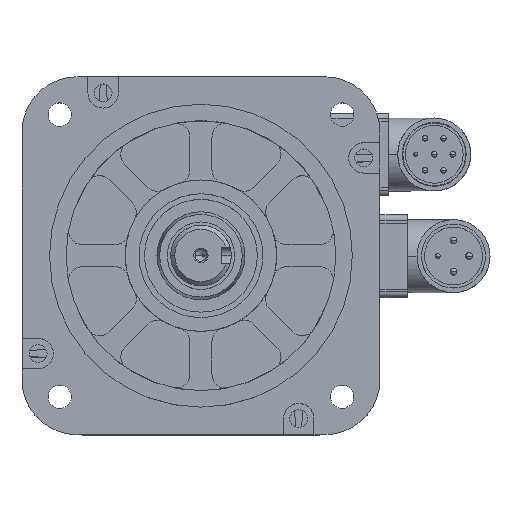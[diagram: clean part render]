
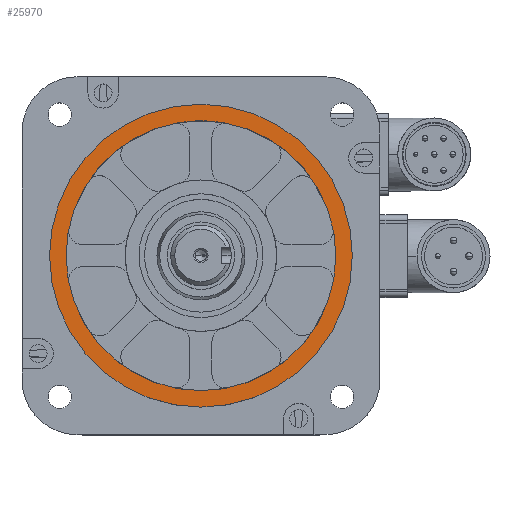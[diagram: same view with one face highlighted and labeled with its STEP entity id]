
A CAD part, top view. The second image highlights one B-rep face of the part: STEP entity #25970.
In plain terms, the highlighted planar face has unit normal (0, 0, 1).
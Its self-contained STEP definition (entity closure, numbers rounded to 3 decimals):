
#509 = CIRCLE ( 'NONE', #13850, 49. ) ;
#1308 = EDGE_CURVE ( 'NONE', #23815, #11035, #3134, .T. ) ;
#1776 = DIRECTION ( 'NONE',  ( 1., 0., 0. ) ) ;
#1792 = CARTESIAN_POINT ( 'NONE',  ( 55., 0., 6. ) ) ;
#1959 = ORIENTED_EDGE ( 'NONE', *, *, #22510, .T. ) ;
#2945 = DIRECTION ( 'NONE',  ( 0., 0., 1. ) ) ;
#3073 = CARTESIAN_POINT ( 'NONE',  ( 0., 0., 6. ) ) ;
#3134 = CIRCLE ( 'NONE', #13291, 55. ) ;
#4900 = DIRECTION ( 'NONE',  ( 1., 0., 0. ) ) ;
#4956 = CARTESIAN_POINT ( 'NONE',  ( -55., 0., 6. ) ) ;
#5112 = DIRECTION ( 'NONE',  ( 1., 0., 0. ) ) ;
#5731 = ORIENTED_EDGE ( 'NONE', *, *, #15938, .F. ) ;
#6292 = CARTESIAN_POINT ( 'NONE',  ( 0., 0., 6. ) ) ;
#6756 = AXIS2_PLACEMENT_3D ( 'NONE', #15074, #2945, #17139 ) ;
#7746 = EDGE_LOOP ( 'NONE', ( #14232, #5731 ) ) ;
#8252 = CIRCLE ( 'NONE', #6756, 55. ) ;
#8352 = DIRECTION ( 'NONE',  ( 1., 0., 0. ) ) ;
#10381 = ORIENTED_EDGE ( 'NONE', *, *, #1308, .T. ) ;
#11035 = VERTEX_POINT ( 'NONE', #4956 ) ;
#12428 = EDGE_LOOP ( 'NONE', ( #1959, #10381 ) ) ;
#12713 = EDGE_CURVE ( 'NONE', #25559, #18356, #509, .T. ) ;
#13274 = AXIS2_PLACEMENT_3D ( 'NONE', #15003, #18997, #4900 ) ;
#13291 = AXIS2_PLACEMENT_3D ( 'NONE', #6292, #20458, #8352 ) ;
#13758 = CIRCLE ( 'NONE', #19535, 49. ) ;
#13850 = AXIS2_PLACEMENT_3D ( 'NONE', #3073, #17267, #5112 ) ;
#13919 = DIRECTION ( 'NONE',  ( 0., 0., 1. ) ) ;
#14232 = ORIENTED_EDGE ( 'NONE', *, *, #12713, .F. ) ;
#15003 = CARTESIAN_POINT ( 'NONE',  ( 0., 0., 6. ) ) ;
#15074 = CARTESIAN_POINT ( 'NONE',  ( 0., 0., 6. ) ) ;
#15938 = EDGE_CURVE ( 'NONE', #18356, #25559, #13758, .T. ) ;
#17044 = PLANE ( 'NONE',  #13274 ) ;
#17139 = DIRECTION ( 'NONE',  ( 1., 0., 0. ) ) ;
#17267 = DIRECTION ( 'NONE',  ( 0., 0., 1. ) ) ;
#17541 = CARTESIAN_POINT ( 'NONE',  ( 49., 0., 6. ) ) ;
#18356 = VERTEX_POINT ( 'NONE', #23793 ) ;
#18997 = DIRECTION ( 'NONE',  ( 0., 0., 1. ) ) ;
#19535 = AXIS2_PLACEMENT_3D ( 'NONE', #26048, #13919, #1776 ) ;
#20458 = DIRECTION ( 'NONE',  ( 0., 0., 1. ) ) ;
#22510 = EDGE_CURVE ( 'NONE', #11035, #23815, #8252, .T. ) ;
#22912 = FACE_OUTER_BOUND ( 'NONE', #12428, .T. ) ;
#23566 = FACE_BOUND ( 'NONE', #7746, .T. ) ;
#23793 = CARTESIAN_POINT ( 'NONE',  ( -49., 0., 6. ) ) ;
#23815 = VERTEX_POINT ( 'NONE', #1792 ) ;
#25559 = VERTEX_POINT ( 'NONE', #17541 ) ;
#25970 = ADVANCED_FACE ( 'NONE', ( #23566, #22912 ), #17044, .T. ) ;
#26048 = CARTESIAN_POINT ( 'NONE',  ( 0., 0., 6. ) ) ;
